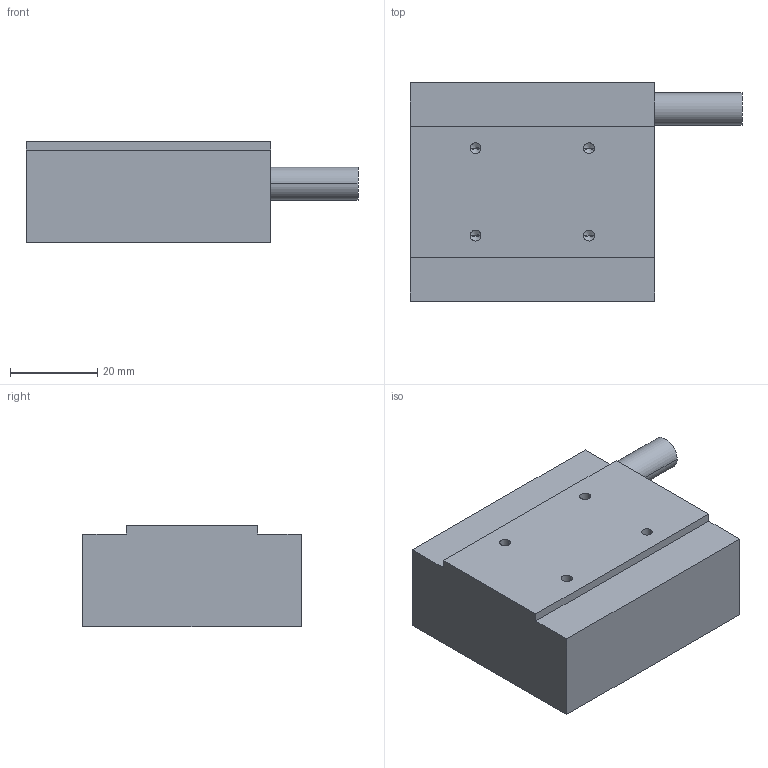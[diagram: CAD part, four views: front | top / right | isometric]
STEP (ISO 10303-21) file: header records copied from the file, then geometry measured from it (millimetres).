
FILE_DESCRIPTION (( 'STEP AP214' ), '1' );
FILE_NAME ('1-CJM030A-01.STEP', '2025-09-05T09:10:20', ( '' ), ( '' ), 'SwSTEP 2.0', 'SolidWorks 2016', '' );
FILE_SCHEMA (( 'AUTOMOTIVE_DESIGN' ));
Length unit declared in the file: millimetre
Products named in the file (1): 1-CJM030A-01
Bounding box: 76 x 50 x 23.2 mm (x, y, z)
Volume: 63383.4 mm3; surface area: 11280.7 mm2
Topology: 1 solids, 1 shells, 53 faces, 126 edges, 68 vertices
Faces by surface type: cone 24, cylinder 18, plane 11
Entity records: 1566 total; most frequent: DIRECTION 262, CARTESIAN_POINT 232, ORIENTED_EDGE 220, EDGE_CURVE 110, AXIS2_PLACEMENT_3D 98, VERTEX_POINT 68, LINE 66, VECTOR 66
